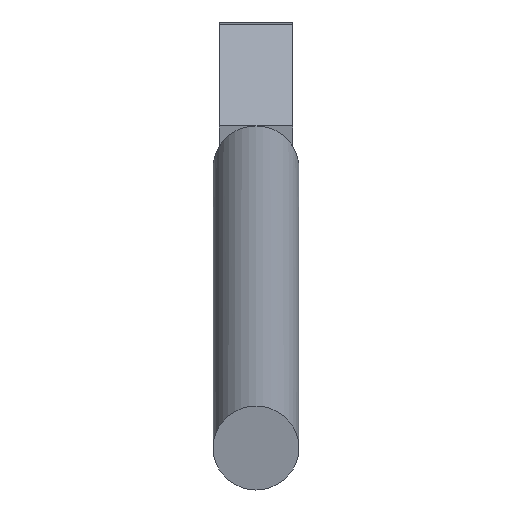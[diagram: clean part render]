
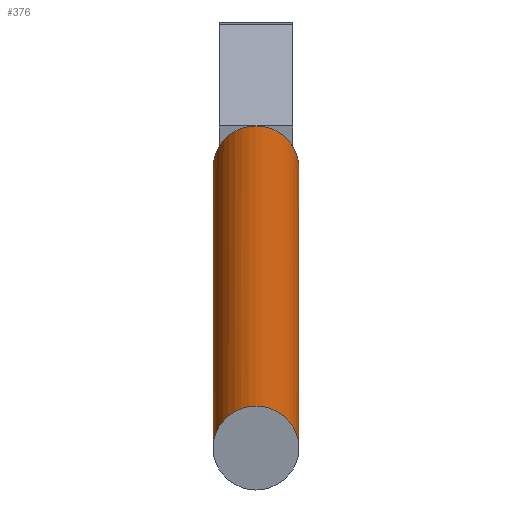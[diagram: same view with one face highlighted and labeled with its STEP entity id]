
A CAD part, left-side view. The second image highlights one B-rep face of the part: STEP entity #376.
In plain terms, the highlighted cylindrical face has radius 17.5 mm (diameter 35 mm), a partial arc.
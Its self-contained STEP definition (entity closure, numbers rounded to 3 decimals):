
#2 = VERTEX_POINT ( 'NONE', #435 ) ;
#11 = ORIENTED_EDGE ( 'NONE', *, *, #305, .T. ) ;
#13 = ORIENTED_EDGE ( 'NONE', *, *, #24, .T. ) ;
#22 = ORIENTED_EDGE ( 'NONE', *, *, #53, .T. ) ;
#24 = EDGE_CURVE ( 'NONE', #248, #304, #209, .T. ) ;
#35 = CARTESIAN_POINT ( 'NONE',  ( -284.802, 64.5, 579.733 ) ) ;
#49 = CARTESIAN_POINT ( 'NONE',  ( 251.353, 32., 702.691 ) ) ;
#53 = EDGE_CURVE ( 'NONE', #400, #390, #262, .T. ) ;
#64 = CARTESIAN_POINT ( 'NONE',  ( 253.224, 29.5, 693.873 ) ) ;
#71 = CARTESIAN_POINT ( 'NONE',  ( 249.592, 47., 710.992 ) ) ;
#72 = CIRCLE ( 'NONE', #73, 17.5 ) ;
#73 = AXIS2_PLACEMENT_3D ( 'NONE', #74, #75, #76 ) ;
#74 = CARTESIAN_POINT ( 'NONE',  ( 253.224, 47., 693.873 ) ) ;
#75 = DIRECTION ( 'NONE',  ( -0.978, 0., -0.208 ) ) ;
#76 = DIRECTION ( 'NONE',  ( 0., 1., 0. ) ) ;
#119 = CIRCLE ( 'NONE', #120, 17.5 ) ;
#120 = AXIS2_PLACEMENT_3D ( 'NONE', #121, #122, #123 ) ;
#121 = CARTESIAN_POINT ( 'NONE',  ( -284.802, 47., 579.733 ) ) ;
#122 = DIRECTION ( 'NONE',  ( -0.978, 0., -0.208 ) ) ;
#123 = DIRECTION ( 'NONE',  ( 0., 1., 0. ) ) ;
#179 = EDGE_CURVE ( 'NONE', #2, #286, #436, .T. ) ;
#192 = CIRCLE ( 'NONE', #193, 17.5 ) ;
#193 = AXIS2_PLACEMENT_3D ( 'NONE', #194, #195, #196 ) ;
#194 = CARTESIAN_POINT ( 'NONE',  ( 253.224, 47., 693.873 ) ) ;
#195 = DIRECTION ( 'NONE',  ( -0.978, 0., -0.208 ) ) ;
#196 = DIRECTION ( 'NONE',  ( 0., 1., 0. ) ) ;
#197 = FACE_OUTER_BOUND ( 'NONE', #422, .T. ) ;
#198 = CYLINDRICAL_SURFACE ( 'NONE', #199, 17.5 ) ;
#199 = AXIS2_PLACEMENT_3D ( 'NONE', #200, #201, #202 ) ;
#200 = CARTESIAN_POINT ( 'NONE',  ( -284.802, 47., 579.733 ) ) ;
#201 = DIRECTION ( 'NONE',  ( 0.978, 0., 0.208 ) ) ;
#202 = DIRECTION ( 'NONE',  ( 0., -1., 0. ) ) ;
#209 = CIRCLE ( 'NONE', #210, 17.5 ) ;
#210 = AXIS2_PLACEMENT_3D ( 'NONE', #211, #212, #214 ) ;
#211 = CARTESIAN_POINT ( 'NONE',  ( 253.224, 47., 693.873 ) ) ;
#212 = DIRECTION ( 'NONE',  ( -0.978, 0., -0.208 ) ) ;
#213 = VERTEX_POINT ( 'NONE', #35 ) ;
#214 = DIRECTION ( 'NONE',  ( 0., 1., 0. ) ) ;
#222 = LINE ( 'NONE', #223, #224 ) ;
#223 = CARTESIAN_POINT ( 'NONE',  ( -284.802, 64.5, 579.733 ) ) ;
#224 = VECTOR ( 'NONE', #225, 1000. ) ;
#225 = DIRECTION ( 'NONE',  ( 0.978, 0., 0.208 ) ) ;
#248 = VERTEX_POINT ( 'NONE', #49 ) ;
#251 = ORIENTED_EDGE ( 'NONE', *, *, #179, .T. ) ;
#254 = CARTESIAN_POINT ( 'NONE',  ( 253.224, 64.5, 693.873 ) ) ;
#262 = CIRCLE ( 'NONE', #263, 17.5 ) ;
#263 = AXIS2_PLACEMENT_3D ( 'NONE', #264, #265, #266 ) ;
#264 = CARTESIAN_POINT ( 'NONE',  ( 253.224, 47., 693.873 ) ) ;
#265 = DIRECTION ( 'NONE',  ( -0.978, 0., -0.208 ) ) ;
#266 = DIRECTION ( 'NONE',  ( 0., 1., 0. ) ) ;
#286 = VERTEX_POINT ( 'NONE', #64 ) ;
#304 = VERTEX_POINT ( 'NONE', #71 ) ;
#305 = EDGE_CURVE ( 'NONE', #286, #248, #72, .T. ) ;
#317 = CARTESIAN_POINT ( 'NONE',  ( 251.353, 62., 702.691 ) ) ;
#359 = EDGE_CURVE ( 'NONE', #2, #213, #119, .T. ) ;
#371 = ORIENTED_EDGE ( 'NONE', *, *, #384, .F. ) ;
#376 = ADVANCED_FACE ( 'NONE', ( #197 ), #198, .T. ) ;
#384 = EDGE_CURVE ( 'NONE', #213, #390, #222, .T. ) ;
#390 = VERTEX_POINT ( 'NONE', #254 ) ;
#400 = VERTEX_POINT ( 'NONE', #317 ) ;
#403 = ORIENTED_EDGE ( 'NONE', *, *, #359, .F. ) ;
#410 = ORIENTED_EDGE ( 'NONE', *, *, #421, .T. ) ;
#421 = EDGE_CURVE ( 'NONE', #304, #400, #192, .T. ) ;
#422 = EDGE_LOOP ( 'NONE', ( #371, #403, #251, #11, #13, #410, #22 ) ) ;
#435 = CARTESIAN_POINT ( 'NONE',  ( -284.802, 29.5, 579.733 ) ) ;
#436 = LINE ( 'NONE', #437, #438 ) ;
#437 = CARTESIAN_POINT ( 'NONE',  ( -284.802, 29.5, 579.733 ) ) ;
#438 = VECTOR ( 'NONE', #439, 1000. ) ;
#439 = DIRECTION ( 'NONE',  ( 0.978, 0., 0.208 ) ) ;
